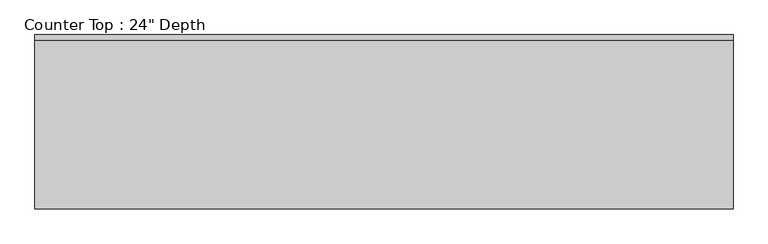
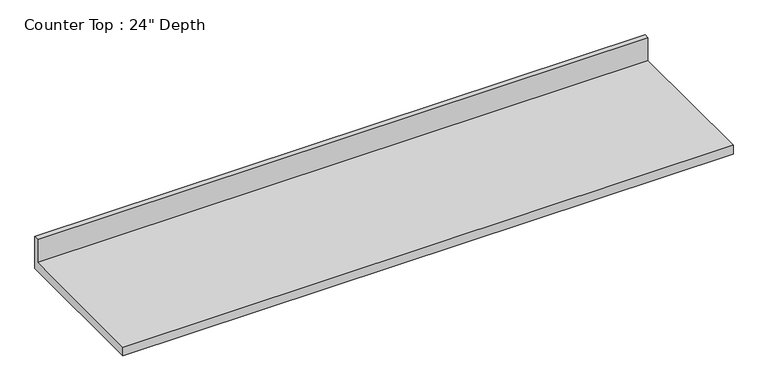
"""IFC4 building model written with IfcOpenShell, lengths in millimetres: furniture geometry."""

import ifcopenshell
import ifcopenshell.guid

model = None  # the IFC model being written
_history = None  # IfcOwnerHistory: only IFC2X3 demands one
_inside = {}  # id of a spatial element -> (the spatial element, [elements in it])
_under = {}  # id of a project, library or spatial element -> (it, [spatial elements below it])
_declared = {}  # id of a project -> (the project, [libraries it declares])
_typed = {}  # id of a type object -> (the type object, [elements of that type])
_made_of = {}  # id of a material, layer set ... -> (it, [elements and type objects made of it])


def new_model(schema):
    """Start an empty IFC model of exactly this schema.

    Asked for "IFC4X3", IfcOpenShell would pick the latest addendum, in which some entities
    have other attributes; the version numbers below select the first issue.
    IFC2X3 requires an IfcOwnerHistory on every rooted entity: one is made here for all.
    """
    global model, _history
    if schema == "IFC4X3":
        model = ifcopenshell.file(schema_version=(4, 3, 0, 0))
    else:
        model = ifcopenshell.file(schema=schema)
    _inside.clear()
    _under.clear()
    _declared.clear()
    _typed.clear()
    _made_of.clear()
    _history = None
    if model.schema == "IFC2X3":
        org = make("IfcOrganization", Name="unknown")
        user = make(
            "IfcPersonAndOrganization",
            ThePerson=make("IfcPerson", FamilyName="unknown"),
            TheOrganization=org,
        )
        app = make(
            "IfcApplication",
            ApplicationDeveloper=org,
            Version="unknown",
            ApplicationFullName="unknown",
            ApplicationIdentifier="unknown",
        )
        _history = make(
            "IfcOwnerHistory",
            OwningUser=user,
            OwningApplication=app,
            ChangeAction="ADDED",
            CreationDate=0,
        )
    return model


def make(cls, **values):
    """One entity of the class cls with the attributes given. An attribute that is None is left unset."""
    return model.create_entity(
        cls, **{name: value for name, value in values.items() if value is not None}
    )


def rooted(cls, **values):
    """An entity with a GlobalId (a new one), such as an element, a storey or a relation."""
    return make(cls, GlobalId=ifcopenshell.guid.new(), OwnerHistory=_history, **values)


def si_unit(unit_type, name, prefix=None):
    """IfcSIUnit, for example si_unit("LENGTHUNIT", "METRE", prefix="MILLI")."""
    return make("IfcSIUnit", UnitType=unit_type, Prefix=prefix, Name=name)


def assignment(units):
    """IfcUnitAssignment: the units of a project."""
    return None if units is None else make("IfcUnitAssignment", Units=units)


def point(xyz):
    """IfcCartesianPoint."""
    return None if xyz is None else make("IfcCartesianPoint", Coordinates=xyz)


def direction(xyz):
    """IfcDirection."""
    return None if xyz is None else make("IfcDirection", DirectionRatios=xyz)


def frame(location, z_axis=None, x_axis=None):
    """IfcAxis2Placement3D, a coordinate frame: its origin and axes. An axis left out is left unset."""
    return make(
        "IfcAxis2Placement3D",
        Location=point(location),
        Axis=direction(z_axis),
        RefDirection=direction(x_axis),
    )


def origin():
    """The frame at (0, 0, 0) with its axes left unset."""
    return frame((0.0, 0.0, 0.0))


def place(relative_to, where):
    """IfcLocalPlacement: puts the frame where relative to a parent placement (None: the world)."""
    return make(
        "IfcLocalPlacement", PlacementRelTo=relative_to, RelativePlacement=where
    )


def context(
    kind, dimensions, precision=None, world=None, true_north=None, identifier=None
):
    """IfcGeometricRepresentationContext, for example the 3D "Model" context."""
    return make(
        "IfcGeometricRepresentationContext",
        ContextIdentifier=identifier,
        ContextType=kind,
        CoordinateSpaceDimension=dimensions,
        Precision=precision,
        WorldCoordinateSystem=world,
        TrueNorth=true_north,
    )


def project(units=None, contexts=None):
    """IfcProject with its units and contexts."""
    return rooted(
        "IfcProject",
        Name="project",
        RepresentationContexts=contexts,
        UnitsInContext=assignment(units),
    )


def spatial(cls, under=None, at=None, **own):
    """A site, building, storey or space (cls), placed at a placement, below another one or the project."""
    s = rooted(cls, ObjectPlacement=at, **own)
    if under is not None:
        _under.setdefault(under.id(), (under, []))[1].append(s)
    return s


def polyline(points):
    """IfcPolyline through the points."""
    return make("IfcPolyline", Points=[point(p) for p in points])


def outline(outer, holes=None, kind="AREA"):
    """IfcArbitraryClosedProfileDef: a profile drawn as a closed curve; with holes, ...WithVoids."""
    if holes is None:
        return make("IfcArbitraryClosedProfileDef", ProfileType=kind, OuterCurve=outer)
    return make(
        "IfcArbitraryProfileDefWithVoids",
        ProfileType=kind,
        OuterCurve=outer,
        InnerCurves=holes,
    )


def extrude(swept, where, along, depth):
    """IfcExtrudedAreaSolid: the profile swept, set in the frame where, extruded along a direction by depth."""
    return make(
        "IfcExtrudedAreaSolid",
        SweptArea=swept,
        Position=where,
        ExtrudedDirection=direction(along),
        Depth=depth,
    )


def shape(context_of_items, identifier, shape_type, items):
    """IfcShapeRepresentation: the items that make up one representation, for example the "Body"."""
    return make(
        "IfcShapeRepresentation",
        ContextOfItems=context_of_items,
        RepresentationIdentifier=identifier,
        RepresentationType=shape_type,
        Items=items,
    )


def source(mapping_origin, context_of_items, identifier, shape_type, items):
    """IfcRepresentationMap: a shape defined once, which mapped items show again and again."""
    return make(
        "IfcRepresentationMap",
        MappingOrigin=mapping_origin,
        MappedRepresentation=shape(context_of_items, identifier, shape_type, items),
    )


def transform(
    local_origin,
    x_axis=None,
    y_axis=None,
    z_axis=None,
    scale=None,
    scale2=None,
    scale3=None,
    uniform=True,
):
    """IfcCartesianTransformationOperator3D, or its non-uniform kind. x_axis, y_axis, z_axis: its Axis1, 2, 3."""
    if uniform:
        return make(
            "IfcCartesianTransformationOperator3D",
            Axis1=direction(x_axis),
            Axis2=direction(y_axis),
            LocalOrigin=point(local_origin),
            Scale=scale,
            Axis3=direction(z_axis),
        )
    return make(
        "IfcCartesianTransformationOperator3DnonUniform",
        Axis1=direction(x_axis),
        Axis2=direction(y_axis),
        LocalOrigin=point(local_origin),
        Scale=scale,
        Axis3=direction(z_axis),
        Scale2=scale2,
        Scale3=scale3,
    )


def mapped(mapping_source, mapping_target):
    """IfcMappedItem: shows the shape of a source again, moved by a transform."""
    return make(
        "IfcMappedItem", MappingSource=mapping_source, MappingTarget=mapping_target
    )


def made_of(thing, what):
    """Note that an element or type object is made of a material, layer set ...; save() writes the relation."""
    if what is not None:
        _made_of.setdefault(what.id(), (what, []))[1].append(thing)
    return thing


def element(
    cls,
    number,
    at=None,
    inside=None,
    cuts=None,
    type_object=None,
    material=None,
    context=None,
    identifier="Body",
    shape_type=None,
    held_by="IfcProductDefinitionShape",
    body=None,
    shapes=None,
    **own,
):
    """One element of the class cls, such as IfcWall. Its Tag is "e" and its number.

    at: its placement. inside: the storey or other place that contains it. cuts: it is an
    opening in that element (IfcRelVoidsElement). A single representation is given by context,
    identifier, shape_type and body (its items); several are given by shapes. held_by: the class
    of the entity that holds the representations. save() writes the other relations.
    """
    e = rooted(cls, Tag="e%d" % number, ObjectPlacement=at, **own)
    if body is not None:
        shapes = [shape(context, identifier, shape_type, body)]
    if shapes is not None:
        e.Representation = make(held_by, Representations=shapes)
    if inside is not None:
        _inside.setdefault(inside.id(), (inside, []))[1].append(e)
    if cuts is not None:
        rooted(
            "IfcRelVoidsElement", RelatingBuildingElement=cuts, RelatedOpeningElement=e
        )
    if type_object is not None:
        _typed.setdefault(type_object.id(), (type_object, []))[1].append(e)
    return made_of(e, material)


def aggregate(whole, parts):
    """IfcRelAggregates: a whole, such as a stair, and the parts it consists of."""
    return rooted("IfcRelAggregates", RelatingObject=whole, RelatedObjects=parts)


def save(model, path):
    """Write the relations noted so far, then the file.

    IfcRelAggregates (storeys below a building ...), IfcRelContainedInSpatialStructure (elements
    in a storey), IfcRelDefinesByType, IfcRelAssociatesMaterial and IfcRelDeclares: one each for
    every whole, place, type object, material and project.
    """
    for whole, parts in _under.values():
        aggregate(whole, parts)
    for where, things in _inside.values():
        rooted(
            "IfcRelContainedInSpatialStructure",
            RelatedElements=things,
            RelatingStructure=where,
        )
    for kind, things in _typed.values():
        rooted("IfcRelDefinesByType", RelatedObjects=things, RelatingType=kind)
    for what, things in _made_of.values():
        rooted("IfcRelAssociatesMaterial", RelatedObjects=things, RelatingMaterial=what)
    for by, libraries in _declared.values():
        rooted("IfcRelDeclares", RelatingContext=by, RelatedDefinitions=libraries)
    model.write(path)


def furniture_c0b19bce(model_context):
    return source(origin(), model_context, "Body", "SweptSolid", [
        extrude(outline(polyline([(0.0, 1016.0), (0.0, 876.3), (-635.0, 876.3), (-635.0, 914.4), (-19.05, 914.4), (-19.05, 1016.0), (0.0, 1016.0)])), frame((-1200.4622951, 0.0, 0.0), z_axis=(1.0, 0.0, 0.0), x_axis=(0.0, 1.0, 0.0)), (0.0, 0.0, 1.0), 2540.0),
    ])


if __name__ == "__main__":
    model = new_model("IFC4")
    model_context = context("Model", 3, world=origin())
    ifc_project = project(units=[si_unit("LENGTHUNIT", "METRE", prefix="MILLI")], contexts=[model_context])
    site = spatial("IfcSite", under=ifc_project)
    building = spatial("IfcBuilding", under=site)
    placement = place(None, origin())
    furniture_shape = furniture_c0b19bce(model_context)
    element("IfcFurniture", 1, ObjectType="Counter Top : 24\" Depth", at=placement, inside=building, context=model_context, shape_type="MappedRepresentation", body=[
        mapped(furniture_shape, transform((0.0, 0.0, 0.0), x_axis=(1.0, 0.0, 0.0), y_axis=(0.0, 1.0, 0.0), z_axis=(0.0, 0.0, 1.0))),
    ])
    save(model, "model.ifc")
